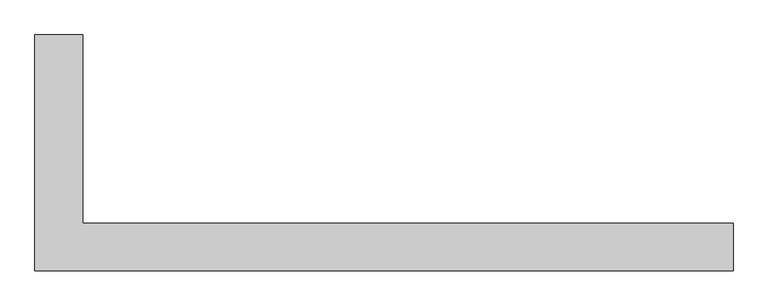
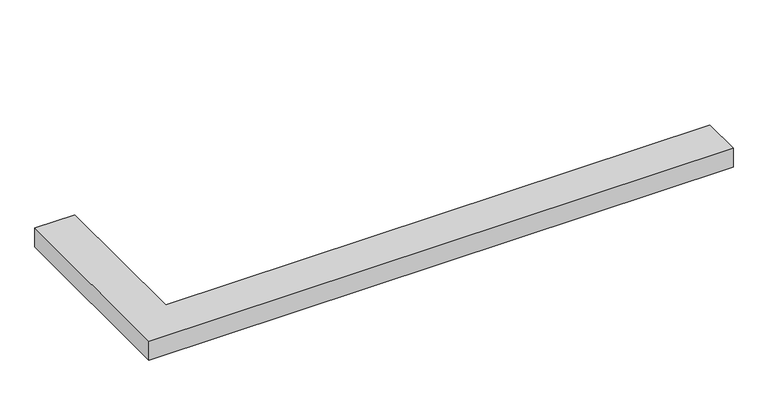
"""IFC4 building model written with IfcOpenShell, lengths in millimetres: stair geometry, 楼梯 2 : 楼梯 2."""

import ifcopenshell
import ifcopenshell.guid

model = None  # the IFC model being written
_history = None  # IfcOwnerHistory: only IFC2X3 demands one
_inside = {}  # id of a spatial element -> (the spatial element, [elements in it])
_under = {}  # id of a project, library or spatial element -> (it, [spatial elements below it])
_declared = {}  # id of a project -> (the project, [libraries it declares])
_typed = {}  # id of a type object -> (the type object, [elements of that type])
_made_of = {}  # id of a material, layer set ... -> (it, [elements and type objects made of it])


def new_model(schema):
    """Start an empty IFC model of exactly this schema.

    Asked for "IFC4X3", IfcOpenShell would pick the latest addendum, in which some entities
    have other attributes; the version numbers below select the first issue.
    IFC2X3 requires an IfcOwnerHistory on every rooted entity: one is made here for all.
    """
    global model, _history
    if schema == "IFC4X3":
        model = ifcopenshell.file(schema_version=(4, 3, 0, 0))
    else:
        model = ifcopenshell.file(schema=schema)
    _inside.clear()
    _under.clear()
    _declared.clear()
    _typed.clear()
    _made_of.clear()
    _history = None
    if model.schema == "IFC2X3":
        org = make("IfcOrganization", Name="unknown")
        user = make(
            "IfcPersonAndOrganization",
            ThePerson=make("IfcPerson", FamilyName="unknown"),
            TheOrganization=org,
        )
        app = make(
            "IfcApplication",
            ApplicationDeveloper=org,
            Version="unknown",
            ApplicationFullName="unknown",
            ApplicationIdentifier="unknown",
        )
        _history = make(
            "IfcOwnerHistory",
            OwningUser=user,
            OwningApplication=app,
            ChangeAction="ADDED",
            CreationDate=0,
        )
    return model


def make(cls, **values):
    """One entity of the class cls with the attributes given. An attribute that is None is left unset."""
    return model.create_entity(
        cls, **{name: value for name, value in values.items() if value is not None}
    )


def rooted(cls, **values):
    """An entity with a GlobalId (a new one), such as an element, a storey or a relation."""
    return make(cls, GlobalId=ifcopenshell.guid.new(), OwnerHistory=_history, **values)


def si_unit(unit_type, name, prefix=None):
    """IfcSIUnit, for example si_unit("LENGTHUNIT", "METRE", prefix="MILLI")."""
    return make("IfcSIUnit", UnitType=unit_type, Prefix=prefix, Name=name)


def assignment(units):
    """IfcUnitAssignment: the units of a project."""
    return None if units is None else make("IfcUnitAssignment", Units=units)


def point(xyz):
    """IfcCartesianPoint."""
    return None if xyz is None else make("IfcCartesianPoint", Coordinates=xyz)


def direction(xyz):
    """IfcDirection."""
    return None if xyz is None else make("IfcDirection", DirectionRatios=xyz)


def frame(location, z_axis=None, x_axis=None):
    """IfcAxis2Placement3D, a coordinate frame: its origin and axes. An axis left out is left unset."""
    return make(
        "IfcAxis2Placement3D",
        Location=point(location),
        Axis=direction(z_axis),
        RefDirection=direction(x_axis),
    )


def origin():
    """The frame at (0, 0, 0) with its axes left unset."""
    return frame((0.0, 0.0, 0.0))


def place(relative_to, where):
    """IfcLocalPlacement: puts the frame where relative to a parent placement (None: the world)."""
    return make(
        "IfcLocalPlacement", PlacementRelTo=relative_to, RelativePlacement=where
    )


def context(
    kind, dimensions, precision=None, world=None, true_north=None, identifier=None
):
    """IfcGeometricRepresentationContext, for example the 3D "Model" context."""
    return make(
        "IfcGeometricRepresentationContext",
        ContextIdentifier=identifier,
        ContextType=kind,
        CoordinateSpaceDimension=dimensions,
        Precision=precision,
        WorldCoordinateSystem=world,
        TrueNorth=true_north,
    )


def project(units=None, contexts=None):
    """IfcProject with its units and contexts."""
    return rooted(
        "IfcProject",
        Name="project",
        RepresentationContexts=contexts,
        UnitsInContext=assignment(units),
    )


def spatial(cls, under=None, at=None, **own):
    """A site, building, storey or space (cls), placed at a placement, below another one or the project."""
    s = rooted(cls, ObjectPlacement=at, **own)
    if under is not None:
        _under.setdefault(under.id(), (under, []))[1].append(s)
    return s


def polyline(points):
    """IfcPolyline through the points."""
    return make("IfcPolyline", Points=[point(p) for p in points])


def outline(outer, holes=None, kind="AREA"):
    """IfcArbitraryClosedProfileDef: a profile drawn as a closed curve; with holes, ...WithVoids."""
    if holes is None:
        return make("IfcArbitraryClosedProfileDef", ProfileType=kind, OuterCurve=outer)
    return make(
        "IfcArbitraryProfileDefWithVoids",
        ProfileType=kind,
        OuterCurve=outer,
        InnerCurves=holes,
    )


def extrude(swept, where, along, depth):
    """IfcExtrudedAreaSolid: the profile swept, set in the frame where, extruded along a direction by depth."""
    return make(
        "IfcExtrudedAreaSolid",
        SweptArea=swept,
        Position=where,
        ExtrudedDirection=direction(along),
        Depth=depth,
    )


def shape(context_of_items, identifier, shape_type, items):
    """IfcShapeRepresentation: the items that make up one representation, for example the "Body"."""
    return make(
        "IfcShapeRepresentation",
        ContextOfItems=context_of_items,
        RepresentationIdentifier=identifier,
        RepresentationType=shape_type,
        Items=items,
    )


def source(mapping_origin, context_of_items, identifier, shape_type, items):
    """IfcRepresentationMap: a shape defined once, which mapped items show again and again."""
    return make(
        "IfcRepresentationMap",
        MappingOrigin=mapping_origin,
        MappedRepresentation=shape(context_of_items, identifier, shape_type, items),
    )


def transform(
    local_origin,
    x_axis=None,
    y_axis=None,
    z_axis=None,
    scale=None,
    scale2=None,
    scale3=None,
    uniform=True,
):
    """IfcCartesianTransformationOperator3D, or its non-uniform kind. x_axis, y_axis, z_axis: its Axis1, 2, 3."""
    if uniform:
        return make(
            "IfcCartesianTransformationOperator3D",
            Axis1=direction(x_axis),
            Axis2=direction(y_axis),
            LocalOrigin=point(local_origin),
            Scale=scale,
            Axis3=direction(z_axis),
        )
    return make(
        "IfcCartesianTransformationOperator3DnonUniform",
        Axis1=direction(x_axis),
        Axis2=direction(y_axis),
        LocalOrigin=point(local_origin),
        Scale=scale,
        Axis3=direction(z_axis),
        Scale2=scale2,
        Scale3=scale3,
    )


def mapped(mapping_source, mapping_target):
    """IfcMappedItem: shows the shape of a source again, moved by a transform."""
    return make(
        "IfcMappedItem", MappingSource=mapping_source, MappingTarget=mapping_target
    )


def made_of(thing, what):
    """Note that an element or type object is made of a material, layer set ...; save() writes the relation."""
    if what is not None:
        _made_of.setdefault(what.id(), (what, []))[1].append(thing)
    return thing


def element(
    cls,
    number,
    at=None,
    inside=None,
    cuts=None,
    type_object=None,
    material=None,
    context=None,
    identifier="Body",
    shape_type=None,
    held_by="IfcProductDefinitionShape",
    body=None,
    shapes=None,
    **own,
):
    """One element of the class cls, such as IfcWall. Its Tag is "e" and its number.

    at: its placement. inside: the storey or other place that contains it. cuts: it is an
    opening in that element (IfcRelVoidsElement). A single representation is given by context,
    identifier, shape_type and body (its items); several are given by shapes. held_by: the class
    of the entity that holds the representations. save() writes the other relations.
    """
    e = rooted(cls, Tag="e%d" % number, ObjectPlacement=at, **own)
    if body is not None:
        shapes = [shape(context, identifier, shape_type, body)]
    if shapes is not None:
        e.Representation = make(held_by, Representations=shapes)
    if inside is not None:
        _inside.setdefault(inside.id(), (inside, []))[1].append(e)
    if cuts is not None:
        rooted(
            "IfcRelVoidsElement", RelatingBuildingElement=cuts, RelatedOpeningElement=e
        )
    if type_object is not None:
        _typed.setdefault(type_object.id(), (type_object, []))[1].append(e)
    return made_of(e, material)


def aggregate(whole, parts):
    """IfcRelAggregates: a whole, such as a stair, and the parts it consists of."""
    return rooted("IfcRelAggregates", RelatingObject=whole, RelatedObjects=parts)


def save(model, path):
    """Write the relations noted so far, then the file.

    IfcRelAggregates (storeys below a building ...), IfcRelContainedInSpatialStructure (elements
    in a storey), IfcRelDefinesByType, IfcRelAssociatesMaterial and IfcRelDeclares: one each for
    every whole, place, type object, material and project.
    """
    for whole, parts in _under.values():
        aggregate(whole, parts)
    for where, things in _inside.values():
        rooted(
            "IfcRelContainedInSpatialStructure",
            RelatedElements=things,
            RelatingStructure=where,
        )
    for kind, things in _typed.values():
        rooted("IfcRelDefinesByType", RelatedObjects=things, RelatingType=kind)
    for what, things in _made_of.values():
        rooted("IfcRelAssociatesMaterial", RelatedObjects=things, RelatingMaterial=what)
    for by, libraries in _declared.values():
        rooted("IfcRelDeclares", RelatingContext=by, RelatedDefinitions=libraries)
    model.write(path)


def stair_016f0c91(model_context):
    return source(origin(), model_context, "Body", "SweptSolid", [
        extrude(outline(polyline([(26145.1052473, -8748.768361), (26445.1052473, -8748.768361), (26445.1052473, -9928.768361), (30525.1052473, -9928.768361), (30525.1052473, -10228.768361), (26145.1052473, -10228.768361), (26145.1052473, -8748.768361)])), frame((0.0, 0.0, -300.0), z_axis=(0.0, 0.0, 1.0), x_axis=(1.0, 0.0, 0.0)), (0.0, 0.0, 1.0), 150.0),
    ])


if __name__ == "__main__":
    model = new_model("IFC4")
    model_context = context("Model", 3, world=origin())
    ifc_project = project(units=[si_unit("LENGTHUNIT", "METRE", prefix="MILLI")], contexts=[model_context])
    site = spatial("IfcSite", under=ifc_project)
    building = spatial("IfcBuilding", under=site)
    placement = place(None, origin())
    stair_shape = stair_016f0c91(model_context)
    element("IfcStair", 1, ObjectType="楼梯 2 : 楼梯 2", at=placement, inside=building, context=model_context, shape_type="MappedRepresentation", body=[
        mapped(stair_shape, transform((0.0, 0.0, 0.0), x_axis=(1.0, 0.0, 0.0), y_axis=(0.0, 1.0, 0.0), z_axis=(0.0, 0.0, 1.0))),
    ])
    save(model, "model.ifc")
